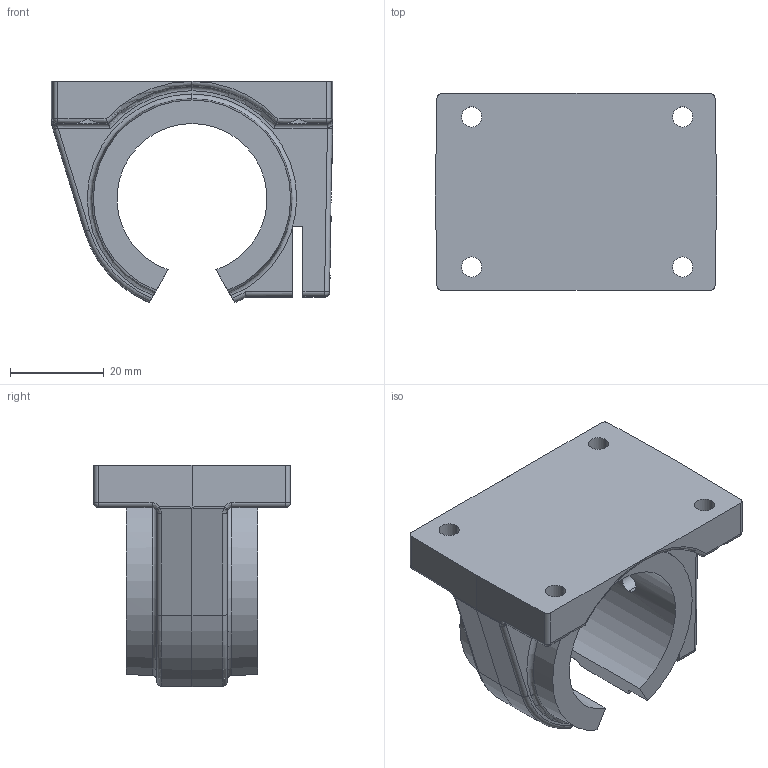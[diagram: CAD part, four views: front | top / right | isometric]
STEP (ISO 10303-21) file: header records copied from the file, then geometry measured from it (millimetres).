
FILE_DESCRIPTION (( 'STEP AP203' ), '1' );
FILE_NAME ('KGGOE68-20.step', '2020-03-10T16:19:29', ( '' ), ( '' ), 'SwSTEP 2.0', 'SolidWorks 2019', '' );
FILE_SCHEMA (( 'CONFIG_CONTROL_DESIGN' ));
Length unit declared in the file: millimetre
Products named in the file (2): KGGOE68-20
Bounding box: 59.98 x 42 x 47.19 mm (x, y, z)
Volume: 38721.7 mm3; surface area: 14873.8 mm2
Topology: 1 solids, 1 shells, 143 faces, 354 edges, 209 vertices
Faces by surface type: cylinder 63, plane 39, torus 16, cone 9, bspline 8, sphere 8
Entity records: 4691 total; most frequent: CARTESIAN_POINT 1253, ORIENTED_EDGE 700, DIRECTION 691, EDGE_CURVE 350, AXIS2_PLACEMENT_3D 275, VERTEX_POINT 209, EDGE_LOOP 155, ADVANCED_FACE 143
